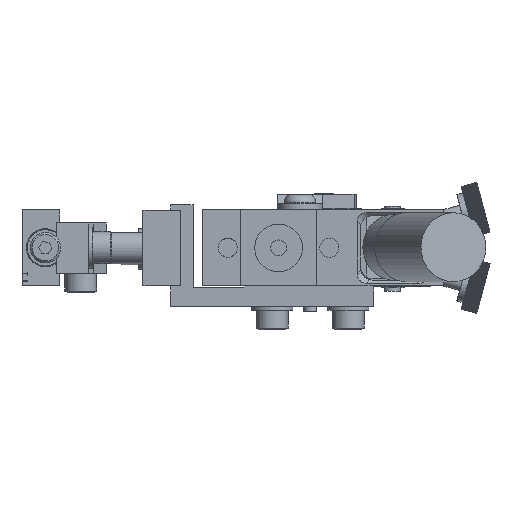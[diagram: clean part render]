
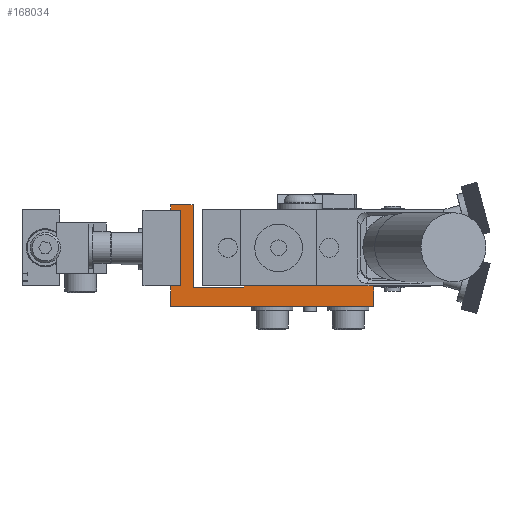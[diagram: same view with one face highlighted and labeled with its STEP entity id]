
A CAD part, left-side view. The second image highlights one B-rep face of the part: STEP entity #168034.
In plain terms, the highlighted planar face has unit normal (-1, 0, 0).
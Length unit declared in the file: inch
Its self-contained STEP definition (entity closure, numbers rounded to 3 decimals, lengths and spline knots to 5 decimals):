
#10309=CARTESIAN_POINT('',(-0.4995,1.8755,0.));
#10310=VERTEX_POINT('',#10309);
#10376=CARTESIAN_POINT('',(-0.4995,1.8755,0.745));
#10377=VERTEX_POINT('',#10376);
#11058=CARTESIAN_POINT('',(-0.4995,1.8755,0.));
#11059=DIRECTION('',(0.0,0.0,1.0));
#11060=VECTOR('',#11059,0.745);
#11061=LINE('',#11058,#11060);
#11062=EDGE_CURVE('',#10310,#10377,#11061,.T.);
#167584=CARTESIAN_POINT('',(-0.4995,1.1555,0.));
#167585=VERTEX_POINT('',#167584);
#167592=CARTESIAN_POINT('',(-0.4995,-0.1245,0.));
#167593=VERTEX_POINT('',#167592);
#167594=CARTESIAN_POINT('',(-0.4995,1.1555,0.));
#167595=DIRECTION('',(0.0,-1.0,0.0));
#167596=VECTOR('',#167595,1.28);
#167597=LINE('',#167594,#167596);
#167598=EDGE_CURVE('',#167585,#167593,#167597,.T.);
#167965=CARTESIAN_POINT('',(-0.4995,0.76361,-0.10189));
#167966=DIRECTION('',(1.0,0.0,0.0));
#167967=DIRECTION('',(0.0,-1.0,0.0));
#167968=AXIS2_PLACEMENT_3D('',#167965,#167966,#167967);
#167969=PLANE('',#167968);
#167970=CARTESIAN_POINT('',(-0.4995,1.8755,-0.2));
#167971=VERTEX_POINT('',#167970);
#167972=CARTESIAN_POINT('',(-0.4995,-0.1245,-0.2));
#167973=VERTEX_POINT('',#167972);
#167974=CARTESIAN_POINT('',(-0.4995,1.8755,-0.2));
#167975=DIRECTION('',(0.0,-1.0,0.0));
#167976=VECTOR('',#167975,2.);
#167977=LINE('',#167974,#167976);
#167978=EDGE_CURVE('',#167971,#167973,#167977,.T.);
#167979=ORIENTED_EDGE('',*,*,#167978,.T.);
#167980=CARTESIAN_POINT('',(-0.4995,-0.1245,-0.2));
#167981=DIRECTION('',(0.0,0.0,1.0));
#167982=VECTOR('',#167981,0.2);
#167983=LINE('',#167980,#167982);
#167984=EDGE_CURVE('',#167973,#167593,#167983,.T.);
#167985=ORIENTED_EDGE('',*,*,#167984,.T.);
#167986=ORIENTED_EDGE('',*,*,#167598,.F.);
#167987=CARTESIAN_POINT('',(-0.4995,1.1555,-0.015));
#167988=VERTEX_POINT('',#167987);
#167989=CARTESIAN_POINT('',(-0.4995,1.1555,0.));
#167990=DIRECTION('',(0.0,0.0,-1.0));
#167991=VECTOR('',#167990,0.015);
#167992=LINE('',#167989,#167991);
#167993=EDGE_CURVE('',#167585,#167988,#167992,.T.);
#167994=ORIENTED_EDGE('',*,*,#167993,.T.);
#167995=CARTESIAN_POINT('',(-0.4995,1.6555,-0.015));
#167996=VERTEX_POINT('',#167995);
#167997=CARTESIAN_POINT('',(-0.4995,1.1555,-0.015));
#167998=DIRECTION('',(0.0,1.0,0.0));
#167999=VECTOR('',#167998,0.5);
#168000=LINE('',#167997,#167999);
#168001=EDGE_CURVE('',#167988,#167996,#168000,.T.);
#168002=ORIENTED_EDGE('',*,*,#168001,.T.);
#168003=CARTESIAN_POINT('',(-0.4995,1.6555,0.8));
#168004=VERTEX_POINT('',#168003);
#168005=CARTESIAN_POINT('',(-0.4995,1.6555,-0.015));
#168006=DIRECTION('',(0.0,0.0,1.0));
#168007=VECTOR('',#168006,0.815);
#168008=LINE('',#168005,#168007);
#168009=EDGE_CURVE('',#167996,#168004,#168008,.T.);
#168010=ORIENTED_EDGE('',*,*,#168009,.T.);
#168011=CARTESIAN_POINT('',(-0.4995,1.8755,0.8));
#168012=VERTEX_POINT('',#168011);
#168013=CARTESIAN_POINT('',(-0.4995,1.6555,0.8));
#168014=DIRECTION('',(0.0,1.0,0.0));
#168015=VECTOR('',#168014,0.22);
#168016=LINE('',#168013,#168015);
#168017=EDGE_CURVE('',#168004,#168012,#168016,.T.);
#168018=ORIENTED_EDGE('',*,*,#168017,.T.);
#168019=CARTESIAN_POINT('',(-0.4995,1.8755,0.8));
#168020=DIRECTION('',(0.0,0.0,-1.0));
#168021=VECTOR('',#168020,0.055);
#168022=LINE('',#168019,#168021);
#168023=EDGE_CURVE('',#168012,#10377,#168022,.T.);
#168024=ORIENTED_EDGE('',*,*,#168023,.T.);
#168025=ORIENTED_EDGE('',*,*,#11062,.F.);
#168026=CARTESIAN_POINT('',(-0.4995,1.8755,0.));
#168027=DIRECTION('',(0.0,0.0,-1.0));
#168028=VECTOR('',#168027,0.2);
#168029=LINE('',#168026,#168028);
#168030=EDGE_CURVE('',#10310,#167971,#168029,.T.);
#168031=ORIENTED_EDGE('',*,*,#168030,.T.);
#168032=EDGE_LOOP('',(#167979,#167985,#167986,#167994,#168002,#168010,#168018,#168024,#168025,#168031));
#168033=FACE_OUTER_BOUND('',#168032,.T.);
#168034=ADVANCED_FACE('',(#168033),#167969,.F.);
